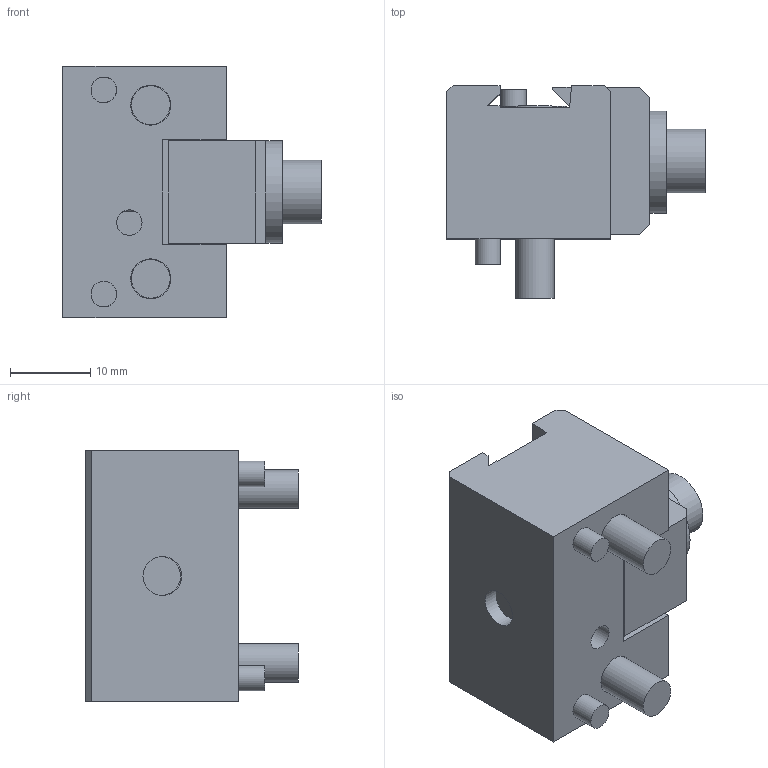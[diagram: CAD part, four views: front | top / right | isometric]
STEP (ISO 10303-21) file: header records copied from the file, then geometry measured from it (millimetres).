
FILE_DESCRIPTION (( 'STEP AP214' ), '1' );
FILE_NAME ('D05125_WEBSITE.STEP', '2025-08-11T13:29:01', ( '' ), ( '' ), 'SwSTEP 2.0', 'SolidWorks 2025', '' );
FILE_SCHEMA (( 'AUTOMOTIVE_DESIGN' ));
Length unit declared in the file: inch
Products named in the file (9): D_HW.73044_WEBSITE_HW.73044; D_D05125-1_WEBSITE_D051251WM-1; D_CLW10_WEBSITE_CLW10; D_HW.0236X0256.CS_WEBSITE; D05125_WEBSITE; D_HW.0203X0500.FW_WEBSITE_DEFAULT; D_HW.73040_WEBSITE_HW.73040; D_HW.0125X0375.DP_WEBSITE_DEFAULT; D_HW.0125X0250.DP_WEBSITE_DEFAULT
Assembly tree (10 placements, depth 2):
  D05125_WEBSITE
    D_D05125-1_WEBSITE_D051251WM-1
    D_CLW10_WEBSITE_CLW10
    D_HW.0203X0500.FW_WEBSITE_DEFAULT
    D_HW.0125X0375.DP_WEBSITE_DEFAULT  x2
    D_HW.0125X0250.DP_WEBSITE_DEFAULT
    D_HW.0236X0256.CS_WEBSITE
    D_HW.73044_WEBSITE_HW.73044
    D_HW.73040_WEBSITE_HW.73040  x2
Bounding box: 32.09 x 26.42 x 31.24 mm (x, y, z)
Volume: 12742.2 mm3; surface area: 8046.2 mm2
Topology: 10 solids, 10 shells, 124 faces, 259 edges, 163 vertices
Faces by surface type: plane 82, cylinder 23, cone 18, bspline 1
Full cylindrical faces by diameter (mm): 3.175 x6, 4.826 x4, 4.978 x2, 5.159 x1, 5.182 x1, 6.35 x1, 7.925 x3, 8.509 x2, 12.7 x1
Entity records: 3694 total; most frequent: CARTESIAN_POINT 1067, DIRECTION 460, ORIENTED_EDGE 388, EDGE_CURVE 194, AXIS2_PLACEMENT_3D 168, EDGE_LOOP 144, VERTEX_POINT 134, LINE 124
